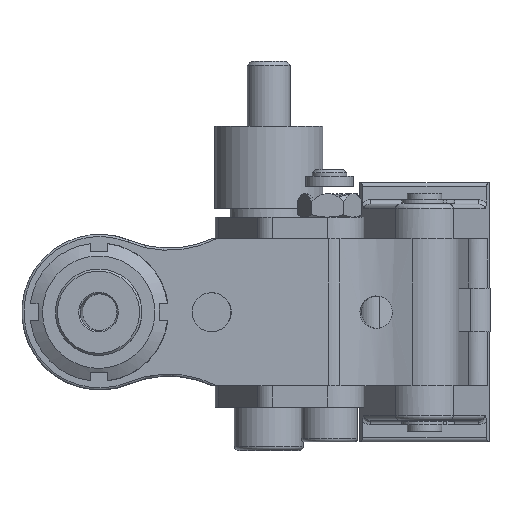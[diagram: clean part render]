
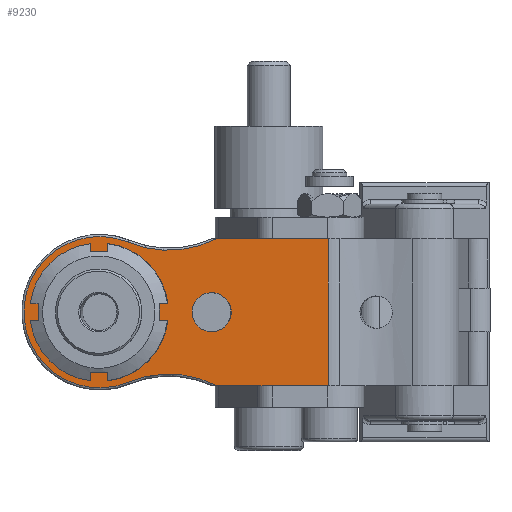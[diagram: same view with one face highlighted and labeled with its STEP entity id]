
A CAD part, left-side view. The second image highlights one B-rep face of the part: STEP entity #9230.
In plain terms, the highlighted planar face has unit normal (-1, 0.029, 0).
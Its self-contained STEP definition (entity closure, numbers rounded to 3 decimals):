
#365=LINE('',#13586,#992);
#368=LINE('',#13623,#995);
#371=LINE('',#13660,#998);
#376=LINE('',#13704,#1003);
#379=LINE('',#13714,#1006);
#380=LINE('',#13719,#1007);
#381=LINE('',#13724,#1008);
#384=LINE('',#13734,#1011);
#385=LINE('',#13739,#1012);
#389=LINE('',#13757,#1016);
#391=LINE('',#13766,#1018);
#392=LINE('',#13771,#1019);
#394=LINE('',#13784,#1021);
#395=LINE('',#13786,#1022);
#396=LINE('',#13788,#1023);
#992=VECTOR('',#10812,10.);
#995=VECTOR('',#10823,10.);
#998=VECTOR('',#10834,10.);
#1003=VECTOR('',#10847,10.);
#1006=VECTOR('',#10852,10.);
#1007=VECTOR('',#10855,10.);
#1008=VECTOR('',#10858,10.);
#1011=VECTOR('',#10863,10.);
#1012=VECTOR('',#10866,10.);
#1016=VECTOR('',#10884,10.);
#1018=VECTOR('',#10888,10.);
#1019=VECTOR('',#10891,10.);
#1021=VECTOR('',#10903,10.);
#1022=VECTOR('',#10904,10.);
#1023=VECTOR('',#10905,10.);
#1742=FACE_BOUND('',#2331,.T.);
#1743=FACE_BOUND('',#2332,.T.);
#1824=FACE_OUTER_BOUND('',#2330,.T.);
#2330=EDGE_LOOP('',(#5805,#5806,#5807,#5808,#5809,#5810));
#2331=EDGE_LOOP('',(#5811));
#2332=EDGE_LOOP('',(#5812,#5813,#5814,#5815,#5816,#5817,#5818,#5819,#5820,
#5821,#5822,#5823,#5824,#5825,#5826,#5827));
#2875=CIRCLE('',#9737,15.4);
#2877=CIRCLE('',#9741,15.4);
#2879=CIRCLE('',#9745,15.4);
#2881=CIRCLE('',#9749,15.4);
#2887=CIRCLE('',#9770,24.5);
#2888=CIRCLE('',#9771,24.5);
#2889=CIRCLE('',#9772,17.5);
#2890=CIRCLE('',#9773,4.5);
#3411=VERTEX_POINT('',#13559);
#3412=VERTEX_POINT('',#13570);
#3414=VERTEX_POINT('',#13585);
#3418=VERTEX_POINT('',#13596);
#3419=VERTEX_POINT('',#13607);
#3421=VERTEX_POINT('',#13622);
#3425=VERTEX_POINT('',#13633);
#3426=VERTEX_POINT('',#13644);
#3428=VERTEX_POINT('',#13659);
#3432=VERTEX_POINT('',#13670);
#3433=VERTEX_POINT('',#13681);
#3437=VERTEX_POINT('',#13702);
#3440=VERTEX_POINT('',#13712);
#3443=VERTEX_POINT('',#13732);
#3447=VERTEX_POINT('',#13755);
#3450=VERTEX_POINT('',#13764);
#3451=VERTEX_POINT('',#13780);
#3452=VERTEX_POINT('',#13781);
#3453=VERTEX_POINT('',#13783);
#3454=VERTEX_POINT('',#13785);
#3455=VERTEX_POINT('',#13787);
#3456=VERTEX_POINT('',#13789);
#3457=VERTEX_POINT('',#13792);
#4316=EDGE_CURVE('',#3411,#3412,#2875,.T.);
#4319=EDGE_CURVE('',#3414,#3412,#365,.T.);
#4324=EDGE_CURVE('',#3418,#3419,#2877,.T.);
#4327=EDGE_CURVE('',#3421,#3419,#368,.T.);
#4332=EDGE_CURVE('',#3425,#3426,#2879,.T.);
#4335=EDGE_CURVE('',#3428,#3426,#371,.T.);
#4340=EDGE_CURVE('',#3432,#3433,#2881,.T.);
#4346=EDGE_CURVE('',#3432,#3437,#376,.T.);
#4350=EDGE_CURVE('',#3425,#3440,#379,.T.);
#4352=EDGE_CURVE('',#3440,#3421,#380,.T.);
#4354=EDGE_CURVE('',#3437,#3428,#381,.T.);
#4358=EDGE_CURVE('',#3418,#3443,#384,.T.);
#4360=EDGE_CURVE('',#3443,#3414,#385,.T.);
#4368=EDGE_CURVE('',#3411,#3447,#389,.T.);
#4371=EDGE_CURVE('',#3447,#3450,#391,.T.);
#4373=EDGE_CURVE('',#3450,#3433,#392,.T.);
#4377=EDGE_CURVE('',#3451,#3452,#2887,.T.);
#4378=EDGE_CURVE('',#3451,#3453,#394,.T.);
#4379=EDGE_CURVE('',#3453,#3454,#395,.T.);
#4380=EDGE_CURVE('',#3454,#3455,#396,.T.);
#4381=EDGE_CURVE('',#3456,#3455,#2888,.T.);
#4382=EDGE_CURVE('',#3452,#3456,#2889,.T.);
#4383=EDGE_CURVE('',#3457,#3457,#2890,.T.);
#5805=ORIENTED_EDGE('',*,*,#4377,.F.);
#5806=ORIENTED_EDGE('',*,*,#4378,.T.);
#5807=ORIENTED_EDGE('',*,*,#4379,.T.);
#5808=ORIENTED_EDGE('',*,*,#4380,.T.);
#5809=ORIENTED_EDGE('',*,*,#4381,.F.);
#5810=ORIENTED_EDGE('',*,*,#4382,.F.);
#5811=ORIENTED_EDGE('',*,*,#4383,.T.);
#5812=ORIENTED_EDGE('',*,*,#4340,.F.);
#5813=ORIENTED_EDGE('',*,*,#4346,.T.);
#5814=ORIENTED_EDGE('',*,*,#4354,.T.);
#5815=ORIENTED_EDGE('',*,*,#4335,.T.);
#5816=ORIENTED_EDGE('',*,*,#4332,.F.);
#5817=ORIENTED_EDGE('',*,*,#4350,.T.);
#5818=ORIENTED_EDGE('',*,*,#4352,.T.);
#5819=ORIENTED_EDGE('',*,*,#4327,.T.);
#5820=ORIENTED_EDGE('',*,*,#4324,.F.);
#5821=ORIENTED_EDGE('',*,*,#4358,.T.);
#5822=ORIENTED_EDGE('',*,*,#4360,.T.);
#5823=ORIENTED_EDGE('',*,*,#4319,.T.);
#5824=ORIENTED_EDGE('',*,*,#4316,.F.);
#5825=ORIENTED_EDGE('',*,*,#4368,.T.);
#5826=ORIENTED_EDGE('',*,*,#4371,.T.);
#5827=ORIENTED_EDGE('',*,*,#4373,.T.);
#8469=PLANE('',#9769);
#9230=ADVANCED_FACE('',(#1824,#1742,#1743),#8469,.T.);
#9737=AXIS2_PLACEMENT_3D('',#13571,#10806,#10807);
#9741=AXIS2_PLACEMENT_3D('',#13608,#10817,#10818);
#9745=AXIS2_PLACEMENT_3D('',#13645,#10828,#10829);
#9749=AXIS2_PLACEMENT_3D('',#13682,#10839,#10840);
#9769=AXIS2_PLACEMENT_3D('',#13779,#10899,#10900);
#9770=AXIS2_PLACEMENT_3D('',#13782,#10901,#10902);
#9771=AXIS2_PLACEMENT_3D('',#13790,#10906,#10907);
#9772=AXIS2_PLACEMENT_3D('',#13791,#10908,#10909);
#9773=AXIS2_PLACEMENT_3D('',#13793,#10910,#10911);
#10806=DIRECTION('center_axis',(-1.,0.03,0.));
#10807=DIRECTION('ref_axis',(0.,0.,-1.));
#10812=DIRECTION('',(0.,0.,1.));
#10817=DIRECTION('center_axis',(-1.,0.03,0.));
#10818=DIRECTION('ref_axis',(0.,0.,-1.));
#10823=DIRECTION('',(0.03,1.,0.));
#10828=DIRECTION('center_axis',(-1.,0.03,0.));
#10829=DIRECTION('ref_axis',(0.,0.,-1.));
#10834=DIRECTION('',(0.,0.,-1.));
#10839=DIRECTION('center_axis',(-1.,0.03,0.));
#10840=DIRECTION('ref_axis',(0.,0.,-1.));
#10847=DIRECTION('',(0.,0.,1.));
#10852=DIRECTION('',(-0.03,-1.,0.));
#10855=DIRECTION('',(0.,0.,1.));
#10858=DIRECTION('',(0.03,1.,0.));
#10863=DIRECTION('',(0.,0.,-1.));
#10866=DIRECTION('',(-0.03,-1.,0.));
#10884=DIRECTION('',(0.03,1.,0.));
#10888=DIRECTION('',(0.,0.,-1.));
#10891=DIRECTION('',(-0.03,-1.,0.));
#10899=DIRECTION('center_axis',(-1.,0.03,0.));
#10900=DIRECTION('ref_axis',(0.,0.,
1.));
#10901=DIRECTION('center_axis',(-1.,0.03,0.));
#10902=DIRECTION('ref_axis',(-0.001,-0.019,
1.));
#10903=DIRECTION('',(-0.03,-1.,0.));
#10904=DIRECTION('',(0.,0.,1.));
#10905=DIRECTION('',(0.03,1.,0.));
#10906=DIRECTION('center_axis',(-1.,0.03,0.));
#10907=DIRECTION('ref_axis',(-0.001,-0.019,
-1.));
#10908=DIRECTION('center_axis',(1.,-0.03,0.));
#10909=DIRECTION('ref_axis',(0.03,1.,0.));
#10910=DIRECTION('center_axis',(1.,-0.03,0.));
#10911=DIRECTION('ref_axis',(-0.03,-1.,0.));
#13559=CARTESIAN_POINT('',(-30.882,45.95,21.5));
#13570=CARTESIAN_POINT('',(-30.49,59.214,34.77));
#13571=CARTESIAN_POINT('Origin',(-30.431,61.213,19.5));
#13585=CARTESIAN_POINT('',(-30.49,59.214,33.5));
#13586=CARTESIAN_POINT('',(-30.49,59.214,27.437));
#13596=CARTESIAN_POINT('',(-30.372,63.212,34.77));
#13607=CARTESIAN_POINT('',(-29.979,76.476,21.5));
#13608=CARTESIAN_POINT('Origin',(-30.431,61.213,19.5));
#13622=CARTESIAN_POINT('',(-30.017,75.207,21.5));
#13623=CARTESIAN_POINT('',(-30.979,42.659,21.5));
#13633=CARTESIAN_POINT('',(-29.979,76.476,17.5));
#13644=CARTESIAN_POINT('',(-30.372,63.212,4.23));
#13645=CARTESIAN_POINT('Origin',(-30.431,61.213,19.5));
#13659=CARTESIAN_POINT('',(-30.372,63.212,5.5));
#13660=CARTESIAN_POINT('',(-30.372,63.212,11.563));
#13670=CARTESIAN_POINT('',(-30.49,59.214,4.23));
#13681=CARTESIAN_POINT('',(-30.882,45.95,17.5));
#13682=CARTESIAN_POINT('Origin',(-30.431,61.213,19.5));
#13702=CARTESIAN_POINT('',(-30.49,59.214,5.5));
#13704=CARTESIAN_POINT('',(-30.49,59.214,12.5));
#13712=CARTESIAN_POINT('',(-30.017,75.207,17.5));
#13714=CARTESIAN_POINT('',(-31.007,41.722,17.5));
#13719=CARTESIAN_POINT('',(-30.017,75.207,20.5));
#13724=CARTESIAN_POINT('',(-31.184,35.724,5.5));
#13732=CARTESIAN_POINT('',(-30.372,63.212,33.5));
#13734=CARTESIAN_POINT('',(-30.372,63.212,26.5));
#13739=CARTESIAN_POINT('',(-31.243,33.725,33.5));
#13755=CARTESIAN_POINT('',(-30.844,47.219,21.5));
#13757=CARTESIAN_POINT('',(-31.42,27.728,21.5));
#13764=CARTESIAN_POINT('',(-30.844,47.219,17.5));
#13766=CARTESIAN_POINT('',(-30.844,47.219,18.5));
#13771=CARTESIAN_POINT('',(-31.448,26.791,17.5));
#13779=CARTESIAN_POINT('Origin',(-31.997,8.236,19.5));
#13780=CARTESIAN_POINT('',(-31.233,34.076,2.5));
#13781=CARTESIAN_POINT('',(-30.628,54.542,3.323));
#13782=CARTESIAN_POINT('Origin',(-30.904,45.202,-19.326));
#13783=CARTESIAN_POINT('',(-31.997,8.236,2.5));
#13784=CARTESIAN_POINT('',(-32.474,-7.918,2.5));
#13785=CARTESIAN_POINT('',(-31.997,8.236,36.5));
#13786=CARTESIAN_POINT('',(-31.997,8.236,19.5));
#13787=CARTESIAN_POINT('',(-31.233,34.076,36.5));
#13788=CARTESIAN_POINT('',(-31.598,21.73,36.5));
#13789=CARTESIAN_POINT('',(-30.628,54.542,35.677));
#13790=CARTESIAN_POINT('Origin',(-30.904,45.202,58.326));
#13791=CARTESIAN_POINT('Origin',(-30.431,61.213,19.5));
#13792=CARTESIAN_POINT('',(-31.066,39.723,19.5));
#13793=CARTESIAN_POINT('Origin',(-31.199,35.225,19.5));
